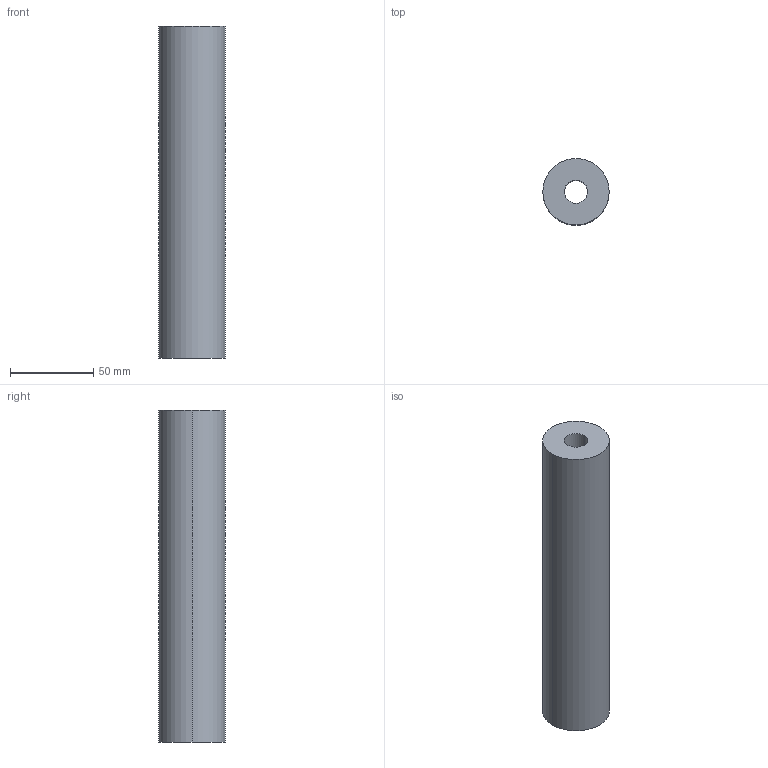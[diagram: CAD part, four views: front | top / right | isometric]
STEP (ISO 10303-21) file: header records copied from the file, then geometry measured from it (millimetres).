
FILE_DESCRIPTION(/* description */ (''),/* implementation_level */ '2;1');
FILE_NAME(/* name */ '3d_pla40-200_04959_r00.stp',/* time_stamp */ '2011-01-10T14:11:43+09:00',/* author */ ('MISUMI'),/* organization */ (''),/* preprocessor_version */ 'ST-DEVELOPER v11',/* originating_system */ 'UGS - NX 5.0',/* authorisation */ '');
FILE_SCHEMA (('CONFIG_CONTROL_DESIGN'));
Length unit declared in the file: millimetre
Products named in the file (1): 3d_pla40-200_04959_r00
Bounding box: 40 x 40 x 200 mm (x, y, z)
Volume: 220539.8 mm3; surface area: 36134.6 mm2
Topology: 1 solids, 1 shells, 6 faces, 12 edges, 8 vertices
Faces by surface type: cylinder 4, plane 2
Entity records: 254 total; most frequent: DIRECTION 34, CARTESIAN_POINT 27, ORIENTED_EDGE 24, AXIS2_PLACEMENT_3D 15, EDGE_CURVE 12, EDGE_LOOP 8, VERTEX_POINT 8, CIRCLE 8
